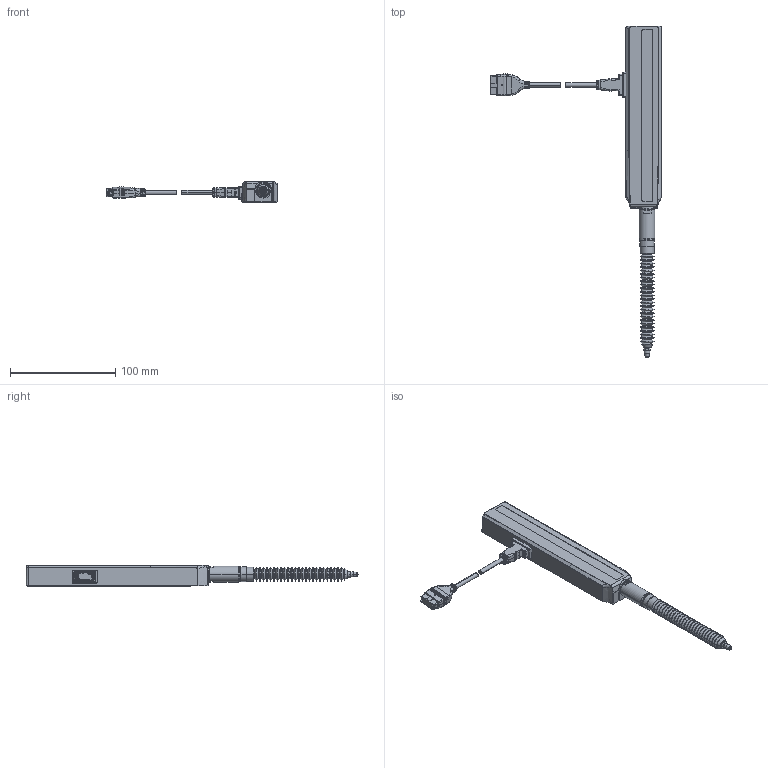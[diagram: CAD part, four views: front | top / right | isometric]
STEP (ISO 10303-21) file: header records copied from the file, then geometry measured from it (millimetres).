
FILE_DESCRIPTION(('Creo Elements/Direct Modeling STEP Export'),'2;1');
FILE_NAME('LGD-1050L-B.stp','2017-09-25T 8:51:30',(''),(''),'Creo Elements/Direct Modeling STEP processor for AP214 (Solid Model)','Creo Elements/Direct Modeling 18.1B 29-Sep-2012 (C) Parametric Technology GmbH','');
FILE_SCHEMA(('AUTOMOTIVE_DESIGN { 1 0 10303 214 1 1 1 1 }'));
Length unit declared in the file: millimetre
Products named in the file (3): LGD-1050L-B_connector; LGD-1050L-B_gauge
Assembly tree (1 placements, depth 2):
  LGD-1050L-B_connector
    LGD-1050L-B_connector
  LGD-1050L-B_gauge
Bounding box: 162.91 x 316 x 20.58 mm (x, y, z)
Volume: 138529.9 mm3; surface area: 31385 mm2
Topology: 2 solids, 2 shells, 1164 faces, 2867 edges, 1739 vertices
Faces by surface type: plane 425, cylinder 286, torus 168, cone 154, bspline 77, sphere 30, extrusion 24
Entity records: 51819 total; most frequent: CARTESIAN_POINT 25867, ORIENTED_EDGE 5726, DIRECTION 5083, EDGE_CURVE 2863, AXIS2_PLACEMENT_3D 1893, VERTEX_POINT 1739, VECTOR 1297, LINE 1281
